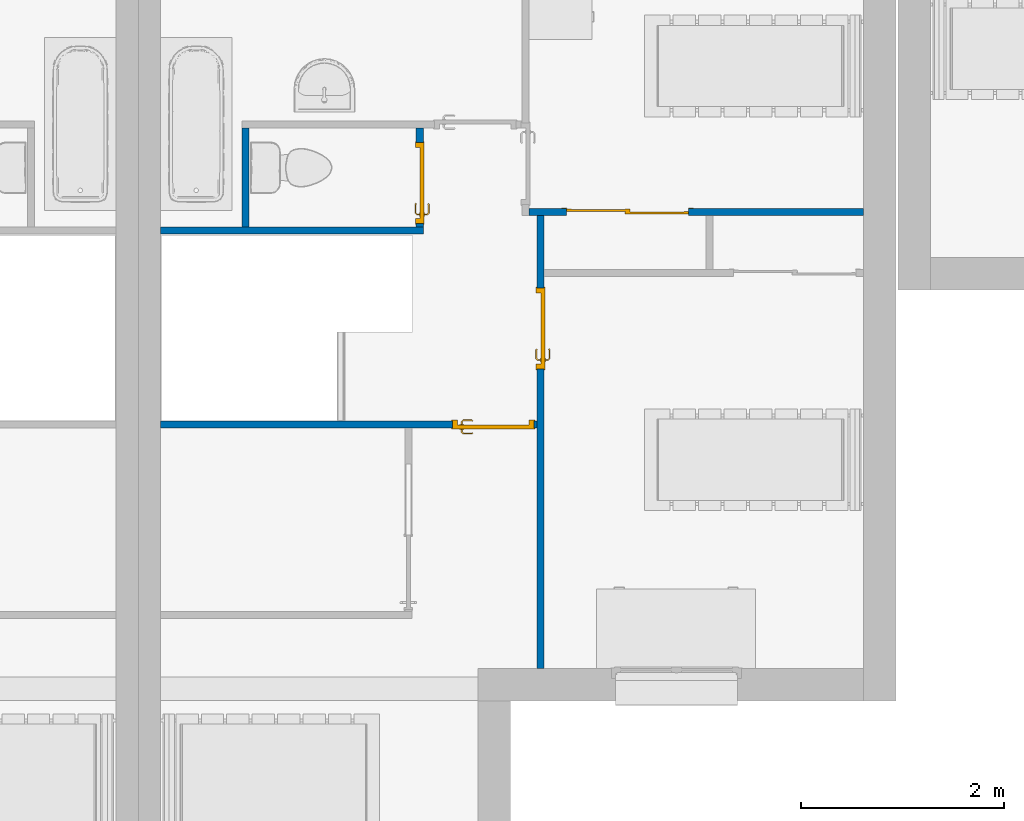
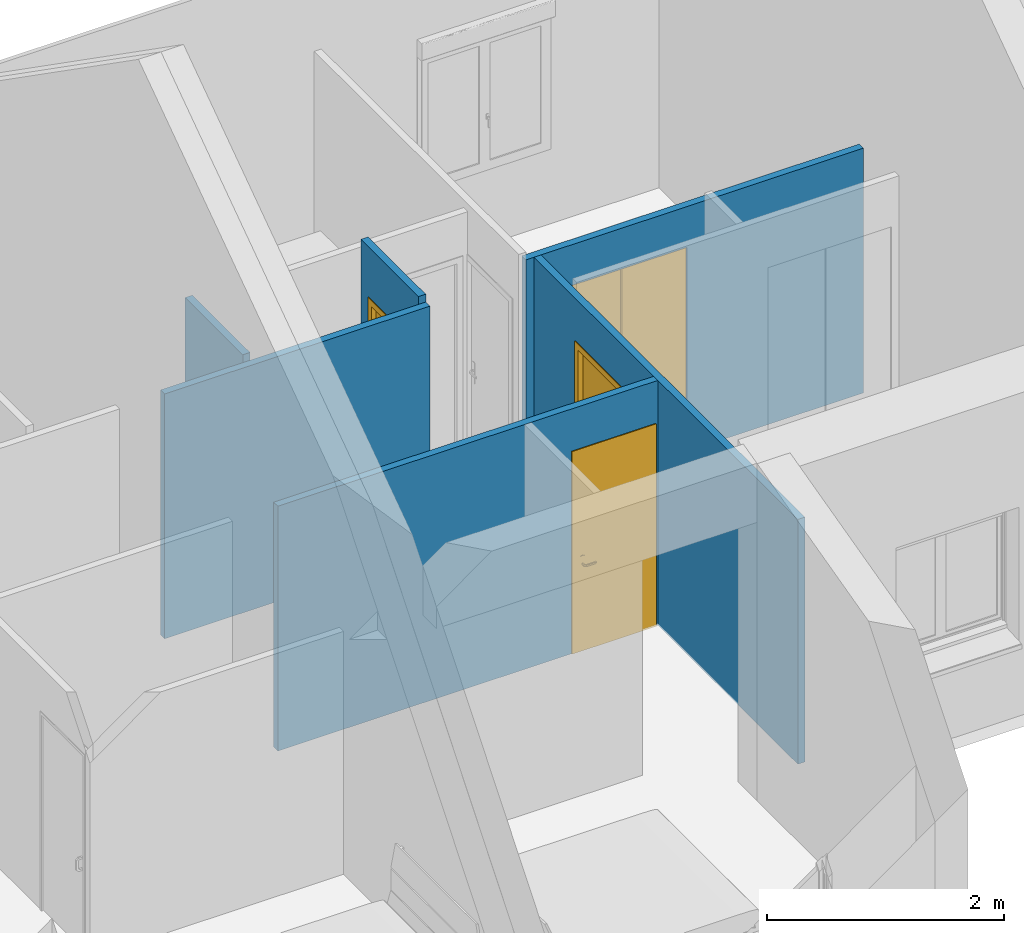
# One storey, part 17 of 50: 6 walls, 4 doors, 4 openings.
"""IFC2X3 building model written with IfcOpenShell, lengths in metres."""

from ifc_helpers import new_model, entity, si_unit, converted_unit, derived_unit, direction, frame, frame_2d, origin, origin_2d_with_axis, place, context, subcontext, project, spatial, polyline, circle_curve, parameter, trimmed, segment, composite_curve, rectangle, outline, extrude, faceted_brep, source, transform, mapped, material, material_list, layer, layer_set, layer_usage, type_object, type_shapes, element, fill, save


model = new_model("IFC2X3")

# Units and contexts
model_context = context("Model", 3, precision=1e-05, world=origin(), true_north=direction((6.12303176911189e-17, 1.0)))
context_of_model = context(None, 3, precision=1e-05, world=origin(), true_north=direction((6.12303176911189e-17, 1.0)))
body_context = subcontext(model_context, "Body", "Model", "MODEL_VIEW")
ifc_project = project(units=[si_unit("LENGTHUNIT", "METRE"), si_unit("AREAUNIT", "SQUARE_METRE"), si_unit("VOLUMEUNIT", "CUBIC_METRE"), converted_unit("PLANEANGLEUNIT", "DEGREE", entity("IfcRatioMeasure", 0.0174532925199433), si_unit("PLANEANGLEUNIT", "RADIAN"), dimensions=[0, 0, 0, 0, 0, 0, 0]), si_unit("MASSUNIT", "GRAM", prefix="KILO"), si_unit("TIMEUNIT", "SECOND"), si_unit("FREQUENCYUNIT", "HERTZ"), si_unit("THERMODYNAMICTEMPERATUREUNIT", "DEGREE_CELSIUS"), derived_unit("THERMALTRANSMITTANCEUNIT", [(si_unit("MASSUNIT", "GRAM", prefix="KILO"), 1), (si_unit("THERMODYNAMICTEMPERATUREUNIT", "KELVIN"), -1), (si_unit("TIMEUNIT", "SECOND"), -3)]), derived_unit("VOLUMETRICFLOWRATEUNIT", [(si_unit("LENGTHUNIT", "METRE"), 3), (si_unit("TIMEUNIT", "SECOND"), -1)]), si_unit("ELECTRICCURRENTUNIT", "AMPERE"), si_unit("ELECTRICVOLTAGEUNIT", "VOLT"), si_unit("POWERUNIT", "WATT"), si_unit("FORCEUNIT", "NEWTON", prefix="KILO"), si_unit("ILLUMINANCEUNIT", "LUX"), si_unit("LUMINOUSFLUXUNIT", "LUMEN"), si_unit("LUMINOUSINTENSITYUNIT", "CANDELA"), si_unit("PRESSUREUNIT", "PASCAL")], contexts=[model_context, context_of_model])

# Site, building, storey
site_placement = place(None, origin())
site = spatial("IfcSite", under=ifc_project, at=site_placement, Name="Surface", CompositionType="ELEMENT")
building_placement = place(site_placement, origin())
building = spatial("IfcBuilding", under=site, at=building_placement, CompositionType="ELEMENT")
storey_placement = place(building_placement, frame((0.0, 0.0, 2.82)))
storey = spatial("IfcBuildingStorey", under=building, at=storey_placement, Name="ETAGE", CompositionType="ELEMENT", Elevation=2.82)

# Wall, opening, door
ifc_material_1 = material(Name="Peinture - Blanc")
ifc_layer = layer(ifc_material_1, 0.07)
ifc_layer_set = layer_set([ifc_layer], Name="Mur de base:Int.  Platre 70 mm en blanc")
ifc_layer_usage_1 = layer_usage(ifc_layer_set, "AXIS2", "NEGATIVE", 0.035)
wall_type = type_object("IfcWallType", Name="Mur de base:Int.  Platre 70 mm en blanc", PredefinedType="STANDARD", material=ifc_layer_set)
wall_1_placement = place(storey_placement, frame((72.7896263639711, 80.2077566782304, 0.0), z_axis=(0.0, 0.0, 1.0), x_axis=(0.0, 1.0, 0.0)))
wall_1 = element("IfcWallStandardCase", 1, at=wall_1_placement, inside=storey, type_object=wall_type, material=ifc_layer_usage_1, Name="Mur de base:Int.  Platre 70 mm en blanc", ObjectType="Mur de base:Int.  Platre 70 mm en blanc", context=body_context, shape_type="SweptSolid", body=[
    extrude(rectangle(XDim=4.44999999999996, YDim=0.0700000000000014, at=frame_2d((2.22499999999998, 0.0), x_axis=(-1.0, 0.0))), origin(), (0.0, 0.0, 1.0), 2.52),
])
opening_1_placement = place(wall_1_placement, frame((3.74, 0.035, 0.0)))
opening_1 = element("IfcOpeningElement", 2, at=opening_1_placement, cuts=wall_1, Name="FR_Simple (R):73 x 204 - (70):1", ObjectType="Opening", context=body_context, shape_type="SweptSolid", body=[
    extrude(rectangle(XDim=2.075, YDim=0.799999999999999, at=frame_2d((1.0375, 0.400000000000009), x_axis=(1.0, 0.0))), frame((0.0, 0.0, 0.0), z_axis=(0.0, -1.0, 0.0), x_axis=(0.0, 0.0, 1.0)), (0.0, 0.0, 1.0), 0.07),
])
ifc_material_2 = material(Name="Poignée Porte")
ifc_material_3 = material(Name="Dormants Portes")
ifc_material_4 = material(Name="Panneaux Portes")
ifc_material_list_1 = material_list([ifc_material_2, ifc_material_3, ifc_material_4])
ifc_material_list_2 = material_list([ifc_material_2, ifc_material_3, ifc_material_4])
door_style_1 = type_object("IfcDoorStyle", Name="73 x 204 - (70)", ConstructionType="NOTDEFINED", OperationType="SINGLE_SWING_LEFT", ParameterTakesPrecedence=False, Sizeable=False, material=ifc_material_list_2)
shared_shape_1 = source(origin(), body_context, "Body", "Brep", [
    faceted_brep([(0.100352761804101, -0.0130000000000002, 0.766003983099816), (0.11, -0.0130000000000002, 0.770000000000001), (0.11, -0.0130000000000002, 0.980000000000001), (0.100352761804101, -0.0130000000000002, 0.983996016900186), (0.0900000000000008, -0.0130000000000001, 0.985358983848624), (0.0796472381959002, -0.0130000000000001, 0.983996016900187), (0.0700000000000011, -0.0130000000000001, 0.980000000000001), (0.0700000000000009, -0.0130000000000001, 0.770000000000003), (0.0796472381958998, -0.0130000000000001, 0.766003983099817), (0.0900000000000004, -0.0130000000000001, 0.764641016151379), (0.100352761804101, -0.00800000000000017, 0.983996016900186), (0.11, -0.00800000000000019, 0.980000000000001), (0.11, -0.00800000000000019, 0.770000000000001), (0.100352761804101, -0.00800000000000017, 0.766003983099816), (0.0900000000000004, -0.00800000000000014, 0.764641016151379), (0.0796472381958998, -0.0080000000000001, 0.766003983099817), (0.0700000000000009, -0.00800000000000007, 0.770000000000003), (0.0700000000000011, -0.00800000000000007, 0.980000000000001), (0.0796472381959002, -0.0080000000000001, 0.983996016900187), (0.0900000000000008, -0.00800000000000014, 0.985358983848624)], [[[0, 1, 2, 3, 4, 5, 6, 7, 8, 9]], [[10, 11, 12, 13, 14, 15, 16, 17, 18, 19]], [[16, 15, 8, 7]], [[8, 15, 14, 9]], [[14, 13, 0, 9]], [[13, 12, 1, 0]], [[2, 1, 12, 11]], [[11, 10, 3, 2]], [[3, 10, 19, 4]], [[19, 18, 5, 4]], [[18, 17, 6, 5]], [[7, 6, 17, 16]]]),
    faceted_brep([(0.100352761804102, 0.0319999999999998, 0.766003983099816), (0.110000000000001, 0.0319999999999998, 0.770000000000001), (0.11, 0.0319999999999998, 0.980000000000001), (0.100352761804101, 0.0319999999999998, 0.983996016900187), (0.0900000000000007, 0.0319999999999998, 0.985358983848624), (0.0796472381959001, 0.0319999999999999, 0.983996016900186), (0.0700000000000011, 0.0319999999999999, 0.980000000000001), (0.0700000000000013, 0.0319999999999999, 0.770000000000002), (0.0796472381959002, 0.0319999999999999, 0.766003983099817), (0.0900000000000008, 0.0319999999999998, 0.764641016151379), (0.100352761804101, 0.0369999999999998, 0.983996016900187), (0.11, 0.0369999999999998, 0.980000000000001), (0.110000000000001, 0.0369999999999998, 0.770000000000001), (0.100352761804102, 0.0369999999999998, 0.766003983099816), (0.0900000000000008, 0.0369999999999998, 0.764641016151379), (0.0796472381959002, 0.0369999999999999, 0.766003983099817), (0.0700000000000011, 0.0369999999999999, 0.770000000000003), (0.0700000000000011, 0.0369999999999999, 0.980000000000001), (0.0796472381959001, 0.0369999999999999, 0.983996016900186), (0.0900000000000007, 0.0369999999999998, 0.985358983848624)], [[[0, 1, 2, 3, 4, 5, 6, 7, 8, 9]], [[10, 11, 12, 13, 14, 15, 16, 17, 18, 19]], [[11, 10, 3, 2]], [[3, 10, 19, 4]], [[19, 18, 5, 4]], [[18, 17, 6, 5]], [[7, 6, 17, 16]], [[16, 15, 8, 7]], [[8, 15, 14, 9]], [[14, 13, 0, 9]], [[13, 12, 1, 0]], [[2, 1, 12, 11]]]),
    faceted_brep([(0.0879747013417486, -0.0130000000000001, 0.907780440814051), (0.0920252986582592, -0.0130000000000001, 0.907780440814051), (0.0960000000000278, -0.0130000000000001, 0.906999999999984), (0.0960000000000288, -0.0130000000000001, 0.893000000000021), (0.0920252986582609, -0.0130000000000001, 0.89221955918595), (0.0879747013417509, -0.0130000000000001, 0.892219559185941), (0.0839999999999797, -0.0130000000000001, 0.892999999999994), (0.0839999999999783, -0.0130000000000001, 0.90699999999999), (0.083999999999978, -0.0406509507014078, 0.906999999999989), (0.0879747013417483, -0.0390045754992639, 0.907780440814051), (0.104023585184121, -0.0550534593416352, 0.907780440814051), (0.105701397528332, -0.0510028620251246, 0.907780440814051), (0.0920252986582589, -0.0373267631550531, 0.907780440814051), (0.198521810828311, -0.0473891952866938, 0.90778044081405), (0.195657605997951, -0.0445249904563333, 0.90778044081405), (0.18917973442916, -0.0510028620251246, 0.90778044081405), (0.190857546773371, -0.0550534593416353, 0.90778044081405), (0.0960000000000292, -0.0356803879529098, 0.90699999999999), (0.0960000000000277, -0.0356803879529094, 0.893000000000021), (0.0920252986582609, -0.0373267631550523, 0.89221955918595), (0.105701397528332, -0.0510028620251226, 0.89221955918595), (0.104023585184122, -0.0550534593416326, 0.89221955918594), (0.0879747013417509, -0.0390045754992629, 0.89221955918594), (0.195657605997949, -0.044524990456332, 0.89221955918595), (0.19852181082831, -0.0473891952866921, 0.89221955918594), (0.19085754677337, -0.0550534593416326, 0.89221955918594), (0.18917973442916, -0.0510028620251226, 0.89221955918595), (0.0839999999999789, -0.0406509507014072, 0.892999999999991), (0.102377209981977, -0.0590281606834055, 0.906999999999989), (0.107347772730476, -0.0470281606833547, 0.90699999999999), (0.107347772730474, -0.0470281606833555, 0.893000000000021), (0.102377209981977, -0.0590281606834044, 0.892999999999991), (0.142307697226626, -0.0590281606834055, 0.906999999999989), (0.147440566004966, -0.053182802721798, 0.907878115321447), (0.192503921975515, -0.0590281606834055, 0.906999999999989), (0.147440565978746, -0.0470281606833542, 0.90699999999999), (0.187533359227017, -0.0470281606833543, 0.906999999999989), (0.187533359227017, -0.0470281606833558, 0.89300000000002), (0.147440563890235, -0.0470281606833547, 0.893000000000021), (0.147440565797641, -0.0531828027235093, 0.892121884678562), (0.192503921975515, -0.0590281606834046, 0.892999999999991), (0.152573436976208, -0.0590281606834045, 0.892999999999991), (0.192847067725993, -0.0417144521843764, 0.906999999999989), (0.201332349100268, -0.0501997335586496, 0.906999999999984), (0.201332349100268, -0.05019973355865, 0.892999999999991), (0.192847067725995, -0.0417144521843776, 0.893000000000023)], [[[0, 1, 2, 3, 4, 5, 6, 7]], [[8, 9, 0, 7]], [[9, 10, 11, 12, 1, 0]], [[13, 14, 15, 16]], [[12, 17, 2, 1]], [[3, 2, 17, 18]], [[18, 19, 4, 3]], [[19, 20, 21, 22, 5, 4]], [[23, 24, 25, 26]], [[22, 27, 6, 5]], [[7, 6, 27, 8]], [[28, 10, 9, 8]], [[11, 29, 17, 12]], [[18, 17, 29, 30]], [[30, 20, 19, 18]], [[21, 31, 27, 22]], [[8, 27, 31, 28]], [[32, 33, 10]], [[33, 32, 16]], [[10, 28, 32]], [[34, 16, 32]], [[33, 35, 11]], [[11, 10, 33]], [[15, 35, 33]], [[29, 11, 35]], [[35, 15, 36]], [[15, 33, 16]], [[30, 29, 35, 36, 37, 38]], [[20, 38, 39]], [[25, 40, 41]], [[31, 21, 41]], [[41, 21, 39]], [[39, 38, 26]], [[26, 25, 39]], [[38, 20, 30]], [[37, 26, 38]], [[20, 39, 21]], [[41, 39, 25]], [[28, 31, 41, 40, 34, 32]], [[42, 14, 13, 43, 44, 24, 23, 45]], [[43, 13, 16, 34]], [[14, 42, 36, 15]], [[37, 36, 42, 45]], [[45, 23, 26, 37]], [[24, 44, 40, 25]], [[34, 40, 44, 43]]]),
    faceted_brep([(0.0879747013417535, 0.0369999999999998, 0.892219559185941), (0.092025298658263, 0.0369999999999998, 0.892219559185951), (0.0960000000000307, 0.0369999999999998, 0.893000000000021), (0.096000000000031, 0.0369999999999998, 0.90699999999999), (0.0920252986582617, 0.0369999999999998, 0.907780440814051), (0.0879747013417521, 0.0369999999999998, 0.907780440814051), (0.0839999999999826, 0.0369999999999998, 0.90699999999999), (0.0839999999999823, 0.0369999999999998, 0.892999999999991), (0.0960000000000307, 0.0594852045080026, 0.893000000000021), (0.0960000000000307, 0.0594852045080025, 0.90699999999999), (0.092025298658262, 0.0611315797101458, 0.907780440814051), (0.105838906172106, 0.0749451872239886, 0.907780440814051), (0.104161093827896, 0.0789957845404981, 0.907780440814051), (0.0879747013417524, 0.0628093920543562, 0.907780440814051), (0.195684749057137, 0.0684673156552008, 0.907780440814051), (0.198548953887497, 0.071331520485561, 0.907780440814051), (0.190884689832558, 0.0789957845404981, 0.907780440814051), (0.189206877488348, 0.0749451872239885, 0.907780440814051), (0.0839999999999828, 0.0644557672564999, 0.90699999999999), (0.0839999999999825, 0.0644557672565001, 0.892999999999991), (0.0879747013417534, 0.0628093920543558, 0.892219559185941), (0.104161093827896, 0.0789957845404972, 0.892219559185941), (0.105838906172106, 0.0749451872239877, 0.892219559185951), (0.0920252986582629, 0.0611315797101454, 0.892219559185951), (0.198548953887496, 0.07133152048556, 0.89221955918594), (0.195684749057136, 0.0684673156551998, 0.89221955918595), (0.189206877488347, 0.0749451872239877, 0.89221955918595), (0.190884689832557, 0.0789957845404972, 0.89221955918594), (0.107485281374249, 0.0709704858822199, 0.893000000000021), (0.107485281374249, 0.0709704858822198, 0.90699999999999), (0.102514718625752, 0.0829704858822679, 0.90699999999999), (0.102514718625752, 0.0829704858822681, 0.892999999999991), (0.147522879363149, 0.0709704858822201, 0.89300000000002), (0.187560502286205, 0.0709704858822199, 0.89300000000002), (0.187560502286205, 0.0709704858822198, 0.90699999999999), (0.147522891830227, 0.0709704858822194, 0.90699999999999), (0.147522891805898, 0.0771249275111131, 0.907878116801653), (0.192531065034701, 0.0829704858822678, 0.90699999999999), (0.152600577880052, 0.0829704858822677, 0.90699999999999), (0.192531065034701, 0.082970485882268, 0.892999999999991), (0.142445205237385, 0.0829704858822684, 0.892999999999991), (0.147522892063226, 0.0771249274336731, 0.892121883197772), (0.192874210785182, 0.0656567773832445, 0.89300000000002), (0.201359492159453, 0.0741420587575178, 0.892999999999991), (0.201359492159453, 0.0741420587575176, 0.90699999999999), (0.192874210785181, 0.0656567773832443, 0.90699999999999)], [[[0, 1, 2, 3, 4, 5, 6, 7]], [[3, 2, 8, 9]], [[9, 10, 4, 3]], [[10, 11, 12, 13, 5, 4]], [[14, 15, 16, 17]], [[13, 18, 6, 5]], [[7, 6, 18, 19]], [[19, 20, 0, 7]], [[20, 21, 22, 23, 1, 0]], [[24, 25, 26, 27]], [[23, 8, 2, 1]], [[9, 8, 28, 29]], [[29, 11, 10, 9]], [[12, 30, 18, 13]], [[19, 18, 30, 31]], [[31, 21, 20, 19]], [[22, 28, 8, 23]], [[28, 32, 33, 34, 35, 29]], [[11, 35, 36]], [[16, 37, 38]], [[30, 12, 38]], [[38, 12, 36]], [[36, 35, 17]], [[17, 16, 36]], [[35, 11, 29]], [[34, 17, 35]], [[11, 36, 12]], [[38, 36, 16]], [[31, 30, 38, 37, 39, 40]], [[40, 41, 21]], [[41, 40, 27]], [[21, 31, 40]], [[39, 27, 40]], [[41, 32, 22]], [[22, 21, 41]], [[26, 32, 41]], [[28, 22, 32]], [[32, 26, 33]], [[26, 41, 27]], [[42, 25, 24, 43, 44, 15, 14, 45]], [[34, 33, 42, 45]], [[45, 14, 17, 34]], [[15, 44, 37, 16]], [[39, 37, 44, 43]], [[43, 24, 27, 39]], [[25, 42, 33, 26]]]),
    faceted_brep([(0.0, 0.0, 0.0), (0.0, 0.0700000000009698, 0.0), (-0.00999999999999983, 0.0700000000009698, 0.0), (-0.00999999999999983, 0.0780000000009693, 0.0), (0.0499999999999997, 0.0780000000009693, 0.0), (0.0499999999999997, 0.032, 0.0), (0.0350000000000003, 0.032, 0.0), (0.0350000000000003, -0.00799999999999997, 0.0), (-0.00999999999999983, -0.00799999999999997, 0.0), (-0.00999999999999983, 0.0, 0.0), (0.0, 0.0, 2.075), (0.0, 0.0700000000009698, 2.075), (0.799999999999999, 0.0700000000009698, 2.075), (0.799999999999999, 0.0700000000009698, 0.0), (0.809999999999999, 0.0700000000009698, 0.0), (0.809999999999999, 0.0700000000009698, 2.085), (-0.00999999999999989, 0.0700000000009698, 2.085), (-0.00999999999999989, 0.0780000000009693, 2.085), (0.809999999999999, 0.0780000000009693, 2.085), (0.809999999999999, 0.0780000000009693, 0.0), (0.75, 0.0780000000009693, 0.0), (0.75, 0.0780000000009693, 2.025), (0.0499999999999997, 0.0780000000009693, 2.025), (0.0499999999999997, 0.032, 2.025), (0.75, 0.032, 2.025), (0.75, 0.032, 0.0), (0.764999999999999, 0.032, 0.0), (0.764999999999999, 0.032, 2.04), (0.0350000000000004, 0.032, 2.04), (0.0350000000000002, -0.00799999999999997, 2.04), (0.764999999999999, -0.00799999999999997, 2.04), (0.764999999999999, -0.00799999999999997, 0.0), (0.809999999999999, -0.00799999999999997, 0.0), (0.809999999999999, -0.00799999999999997, 2.085), (-0.00999999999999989, -0.00799999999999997, 2.085), (-0.00999999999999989, 0.0, 2.085), (0.809999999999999, 0.0, 2.085), (0.809999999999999, 0.0, 0.0), (0.799999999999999, 0.0, 0.0), (0.799999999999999, 0.0, 2.075)], [[[0, 1, 2, 3, 4, 5, 6, 7, 8, 9]], [[1, 0, 10, 11]], [[2, 1, 11, 12, 13, 14, 15, 16]], [[3, 2, 16, 17]], [[4, 3, 17, 18, 19, 20, 21, 22]], [[5, 4, 22, 23]], [[6, 5, 23, 24, 25, 26, 27, 28]], [[7, 6, 28, 29]], [[8, 7, 29, 30, 31, 32, 33, 34]], [[9, 8, 34, 35]], [[0, 9, 35, 36, 37, 38, 39, 10]], [[11, 10, 39, 12]], [[17, 16, 15, 18]], [[23, 22, 21, 24]], [[29, 28, 27, 30]], [[35, 34, 33, 36]], [[38, 37, 32, 31, 26, 25, 20, 19, 14, 13]], [[12, 39, 38, 13]], [[18, 15, 14, 19]], [[24, 21, 20, 25]], [[30, 27, 26, 31]], [[36, 33, 32, 37]]]),
    faceted_brep([(0.0350000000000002, -0.00799999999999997, 2.04), (0.0350000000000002, -0.00799999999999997, 0.0), (0.764999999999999, -0.00799999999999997, 0.0), (0.764999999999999, -0.00799999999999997, 2.04), (0.0350000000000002, 0.032, 2.04), (0.764999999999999, 0.032, 2.04), (0.764999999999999, 0.032, 0.0), (0.0350000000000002, 0.032, 0.0)], [[[0, 1, 2, 3]], [[4, 5, 6, 7]], [[1, 0, 4, 7]], [[2, 1, 7, 6]], [[3, 2, 6, 5]], [[0, 3, 5, 4]]]),
])
type_shapes(door_style_1, [shared_shape_1])
door_1_placement = place(opening_1_placement, frame((-0.800000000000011, -0.0699999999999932, 0.0)))
door_1 = element("IfcDoor", 3, at=door_1_placement, inside=storey, type_object=door_style_1, material=ifc_material_list_1, Name="FR_Simple (R):73 x 204 - (70)", ObjectType="73 x 204 - (70)", OverallHeight=2.075, OverallWidth=0.800000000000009, context=body_context, shape_type="MappedRepresentation", body=[
    mapped(shared_shape_1, transform((0.0, 0.0, 0.0), scale=1.0)),
])
fill(opening_1, door_1)

ifc_layer_usage_2 = layer_usage(ifc_layer_set, "AXIS2", "NEGATIVE", 0.035)
wall_2_placement = place(storey_placement, frame((72.7546263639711, 82.6027566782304, 0.0), z_axis=(0.0, 0.0, 1.0), x_axis=(-1.0, 0.0, 0.0)))
wall_2 = element("IfcWallStandardCase", 4, at=wall_2_placement, inside=storey, type_object=wall_type, material=ifc_layer_usage_2, Name="Mur de base:Int.  Platre 70 mm en blanc", ObjectType="Mur de base:Int.  Platre 70 mm en blanc", context=body_context, shape_type="SweptSolid", body=[
    extrude(rectangle(XDim=3.70038340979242, YDim=0.0699999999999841, at=frame_2d((1.85019170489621, 0.0), x_axis=(-1.0, 0.0))), origin(), (0.0, 0.0, 1.0), 2.52),
])
opening_2_placement = place(wall_2_placement, frame((0.0299999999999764, -0.035, 0.0)))
opening_2 = element("IfcOpeningElement", 5, at=opening_2_placement, cuts=wall_2, Name="FR_Simple (R):73 x 204 - (70):1", ObjectType="Opening", context=body_context, shape_type="SweptSolid", body=[
    extrude(rectangle(XDim=2.075, YDim=0.799999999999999, at=frame_2d((1.0375, 0.4), x_axis=(1.0, 0.0))), frame((0.0, 0.0, 0.0), z_axis=(0.0, 1.0, 0.0), x_axis=(0.0, 0.0, 1.0)), (0.0, 0.0, 1.0), 0.07),
])
ifc_material_list_3 = material_list([ifc_material_2, ifc_material_3, ifc_material_4])
door_2_placement = place(opening_2_placement, frame((0.800000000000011, 0.0699999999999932, 0.0), z_axis=(0.0, 0.0, 1.0), x_axis=(-1.0, 0.0, 0.0)))
door_2 = element("IfcDoor", 6, at=door_2_placement, inside=storey, type_object=door_style_1, material=ifc_material_list_3, Name="FR_Simple (R):73 x 204 - (70)", ObjectType="73 x 204 - (70)", OverallHeight=2.075, OverallWidth=0.8, context=body_context, shape_type="MappedRepresentation", body=[
    mapped(shared_shape_1, transform((0.0, 0.0, 0.0), scale=1.0)),
])
fill(opening_2, door_2)

# Wall
ifc_layer_usage_3 = layer_usage(ifc_layer_set, "AXIS2", "NEGATIVE", 0.035)
wall_3_placement = place(storey_placement, frame((69.0542429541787, 84.5094372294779, 0.0)))
element("IfcWallStandardCase", 7, at=wall_3_placement, inside=storey, type_object=wall_type, material=ifc_layer_usage_3, Name="Mur de base:Int.  Platre 70 mm en blanc", ObjectType="Mur de base:Int.  Platre 70 mm en blanc", context=body_context, shape_type="SweptSolid", body=[
    extrude(rectangle(XDim=2.58204916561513, YDim=0.0699999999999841, at=frame_2d((1.29102458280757, 0.0), x_axis=(-1.0, 0.0))), origin(), (0.0, 0.0, 1.0), 2.52),
])

# Wall, opening, door
ifc_layer_usage_4 = layer_usage(ifc_layer_set, "AXIS2", "NEGATIVE", 0.035)
wall_4_placement = place(storey_placement, frame((72.6767429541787, 84.6927566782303, 0.0)))
wall_4 = element("IfcWallStandardCase", 8, at=wall_4_placement, inside=storey, type_object=wall_type, material=ifc_layer_usage_4, Name="Mur de base:Int.  Platre 70 mm en blanc", ObjectType="Mur de base:Int.  Platre 70 mm en blanc", context=body_context, shape_type="SweptSolid", body=[
    extrude(rectangle(XDim=3.28614635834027, YDim=0.0699999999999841, at=frame_2d((1.64307317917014, 2.15105711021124e-16), x_axis=(-1.0, 0.0))), origin(), (0.0, 0.0, 1.0), 2.52),
])
opening_3_placement = place(wall_4_placement, frame((0.368699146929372, -0.0350000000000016, 0.0)))
opening_3 = element("IfcOpeningElement", 9, at=opening_3_placement, cuts=wall_4, Name="Placard coulissante - 2 panneaux:Placard coulissante - 2 panneaux:1", ObjectType="Opening", context=body_context, shape_type="SweptSolid", body=[
    extrude(rectangle(XDim=2.09999999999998, YDim=1.2, at=frame_2d((1.04999999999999, 0.600000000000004), x_axis=(1.0, 0.0))), frame((0.0, 0.0, 0.0), z_axis=(0.0, 1.0, 0.0), x_axis=(0.0, 0.0, 1.0)), (0.0, 0.0, 1.0), 0.07),
])
ifc_material_5 = material(Name="Placard - Profil")
ifc_material_6 = material(Name="Placard - Encadrement")
ifc_material_7 = material(Name="Placard - Porte")
ifc_material_list_4 = material_list([ifc_material_5, ifc_material_6, ifc_material_7])
ifc_material_list_5 = material_list([ifc_material_5, ifc_material_6, ifc_material_7])
door_style_2 = type_object("IfcDoorStyle", Name="Placard coulissante - 2 panneaux", ConstructionType="NOTDEFINED", OperationType="SLIDING_TO_RIGHT", ParameterTakesPrecedence=False, Sizeable=False, material=ifc_material_list_5)
shared_shape_2 = source(origin(), body_context, "Body", "SweptSolid", [
    extrude(outline(composite_curve([segment(polyline([(-0.0250000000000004, -0.00100000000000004), (0.0249999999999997, -0.00100000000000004)]), True, "CONTINUOUS"), segment(polyline([(0.0249999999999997, -0.00100000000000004), (0.0249999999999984, 0.00100000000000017)]), True, "CONTINUOUS"), segment(trimmed(circle_curve(frame_2d((0.0, -0.212860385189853), x_axis=(-1.0, 0.0)), 0.215316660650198), [parameter(263.332459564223)], [parameter(276.667540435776)], True, "PARAMETER"), True, "CONTINUOUS"), segment(polyline([(-0.0250000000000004, 0.00100000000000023), (-0.0250000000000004, -0.00100000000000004)]), True, "CONTINUOUS")], self_intersect=False)), frame((1.175, 0.00900000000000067, 0.0), z_axis=(0.0, 0.0, 1.0), x_axis=(-1.0, 0.0, 0.0)), (0.0, 0.0, 1.0), 2.1),
    extrude(outline(composite_curve([segment(polyline([(-0.0250000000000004, -0.00100000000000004), (0.0249999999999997, -0.00100000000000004)]), True, "CONTINUOUS"), segment(polyline([(0.0249999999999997, -0.00100000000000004), (0.0249999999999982, 0.00100000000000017)]), True, "CONTINUOUS"), segment(trimmed(circle_curve(frame_2d((0.0, -0.212860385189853), x_axis=(-1.0, 0.0)), 0.215316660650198), [parameter(263.332459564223)], [parameter(276.667540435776)], True, "PARAMETER"), True, "CONTINUOUS"), segment(polyline([(-0.0250000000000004, 0.00100000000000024), (-0.0250000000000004, -0.00100000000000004)]), True, "CONTINUOUS")], self_intersect=False)), frame((0.599999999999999, 0.00900000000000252, 0.0), z_axis=(0.0, 0.0, 1.0), x_axis=(-1.0, 0.0, 0.0)), (0.0, 0.0, 1.0), 2.1),
    extrude(outline(composite_curve([segment(polyline([(-0.0250000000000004, -0.00100000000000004), (0.0249999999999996, -0.00100000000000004)]), True, "CONTINUOUS"), segment(polyline([(0.0249999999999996, -0.00100000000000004), (0.0249999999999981, 0.00100000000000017)]), True, "CONTINUOUS"), segment(trimmed(circle_curve(frame_2d((0.0, -0.212860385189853), x_axis=(-1.0, 0.0)), 0.215316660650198), [parameter(263.332459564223)], [parameter(276.667540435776)], True, "PARAMETER"), True, "CONTINUOUS"), segment(polyline([(-0.0250000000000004, 0.00100000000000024), (-0.0250000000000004, -0.00100000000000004)]), True, "CONTINUOUS")], self_intersect=False)), frame((0.599999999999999, 0.0340000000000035, 0.0), z_axis=(0.0, 0.0, 1.0), x_axis=(-1.0, 0.0, 0.0)), (0.0, 0.0, 1.0), 2.1),
    extrude(outline(composite_curve([segment(polyline([(-0.0250000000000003, -0.00100000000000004), (0.0249999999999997, -0.00100000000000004)]), True, "CONTINUOUS"), segment(polyline([(0.0249999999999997, -0.00100000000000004), (0.0249999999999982, 0.00100000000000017)]), True, "CONTINUOUS"), segment(trimmed(circle_curve(frame_2d((0.0, -0.212860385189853), x_axis=(-1.0, 0.0)), 0.215316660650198), [parameter(263.332459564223)], [parameter(276.667540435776)], True, "PARAMETER"), True, "CONTINUOUS"), segment(polyline([(-0.0250000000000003, 0.00100000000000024), (-0.0250000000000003, -0.00100000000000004)]), True, "CONTINUOUS")], self_intersect=False)), frame((0.0250000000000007, 0.0340000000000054, 0.0), z_axis=(0.0, 0.0, 1.0), x_axis=(-1.0, 0.0, 0.0)), (0.0, 0.0, 1.0), 2.1),
    extrude(outline(polyline([(-1.06149999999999, -0.647999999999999), (1.08649999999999, -0.647999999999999), (1.08649999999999, 0.647999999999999), (-1.06149999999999, 0.647999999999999), (-1.06149999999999, 0.597999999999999), (1.03649999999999, 0.597999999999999), (1.03649999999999, -0.597999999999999), (-1.06149999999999, -0.597999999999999), (-1.06149999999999, -0.647999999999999)])), frame((0.6, -0.003, 1.06149999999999), z_axis=(0.0, 1.0, 0.0), x_axis=(0.0, 0.0, 1.0)), (0.0, 0.0, 1.0), 0.003),
    extrude(rectangle(XDim=0.020000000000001, YDim=0.625000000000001, at=origin_2d_with_axis()), frame((0.8875, 0.0200000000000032, 0.0), z_axis=(0.0, 0.0, 1.0), x_axis=(0.0, 1.0, 0.0)), (0.0, 0.0, 1.0), 2.1),
    extrude(rectangle(XDim=0.02, YDim=0.624999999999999, at=origin_2d_with_axis()), frame((0.3125, 0.0450000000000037, 0.0), z_axis=(0.0, 0.0, 1.0), x_axis=(0.0, 1.0, 0.0)), (0.0, 0.0, 1.0), 2.1),
])
type_shapes(door_style_2, [shared_shape_2])
door_3_placement = place(opening_3_placement, frame((1.2, 0.0699999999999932, 0.0), z_axis=(0.0, 0.0, 1.0), x_axis=(-1.0, 0.0, 0.0)))
door_3 = element("IfcDoor", 10, at=door_3_placement, inside=storey, type_object=door_style_2, material=ifc_material_list_4, Name="Placard coulissante - 2 panneaux:Placard coulissante - 2 panneaux", ObjectType="Placard coulissante - 2 panneaux", OverallHeight=2.09999999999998, OverallWidth=1.2, context=body_context, shape_type="MappedRepresentation", body=[
    mapped(shared_shape_2, transform((0.0, 0.0, 0.0), scale=1.0)),
])
fill(opening_3, door_3)

ifc_layer_usage_5 = layer_usage(ifc_layer_set, "AXIS2", "NEGATIVE", 0.035)
wall_5_placement = place(storey_placement, frame((71.6012921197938, 84.5444372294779, 0.0), z_axis=(0.0, 0.0, 1.0), x_axis=(0.0, 1.0, 0.0)))
wall_5 = element("IfcWallStandardCase", 11, at=wall_5_placement, inside=storey, type_object=wall_type, material=ifc_layer_usage_5, Name="Mur de base:Int.  Platre 70 mm en blanc", ObjectType="Mur de base:Int.  Platre 70 mm en blanc", context=body_context, shape_type="SweptSolid", body=[
    extrude(rectangle(XDim=0.973319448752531, YDim=0.0700000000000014, at=frame_2d((0.486659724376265, 0.0), x_axis=(-1.0, 0.0))), origin(), (0.0, 0.0, 1.0), 2.6),
])
opening_4_placement = place(wall_5_placement, frame((0.833319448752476, 0.035, 0.0)))
opening_4 = element("IfcOpeningElement", 12, at=opening_4_placement, cuts=wall_5, Name="FR_Simple (R):73 x 204 - (70):1", ObjectType="Opening", context=body_context, shape_type="SweptSolid", body=[
    extrude(rectangle(XDim=2.075, YDim=0.799999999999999, at=frame_2d((1.0375, 0.400000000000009), x_axis=(1.0, 0.0))), frame((0.0, 0.0, 0.0), z_axis=(0.0, -1.0, 0.0), x_axis=(0.0, 0.0, 1.0)), (0.0, 0.0, 1.0), 0.07),
])
ifc_material_list_6 = material_list([ifc_material_2, ifc_material_3, ifc_material_4])
door_4_placement = place(opening_4_placement, frame((-0.800000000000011, -0.0700000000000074, 0.0)))
door_4 = element("IfcDoor", 13, at=door_4_placement, inside=storey, type_object=door_style_1, material=ifc_material_list_6, Name="FR_Simple (R):73 x 204 - (70)", ObjectType="73 x 204 - (70)", OverallHeight=2.075, OverallWidth=0.800000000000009, context=body_context, shape_type="MappedRepresentation", body=[
    mapped(shared_shape_1, transform((0.0, 0.0, 0.0), scale=1.0)),
])
fill(opening_4, door_4)

# Wall
ifc_layer_usage_6 = layer_usage(ifc_layer_set, "AXIS2", "NEGATIVE", 0.035)
wall_6_placement = place(storey_placement, frame((69.8896263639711, 84.5444372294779, 0.0), z_axis=(0.0, 0.0, 1.0), x_axis=(0.0, 1.0, 0.0)))
element("IfcWallStandardCase", 14, at=wall_6_placement, inside=storey, type_object=wall_type, material=ifc_layer_usage_6, Name="Mur de base:Int.  Platre 70 mm en blanc", ObjectType="Mur de base:Int.  Platre 70 mm en blanc", context=body_context, shape_type="SweptSolid", body=[
    extrude(rectangle(XDim=0.973319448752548, YDim=0.0700000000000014, at=frame_2d((0.486659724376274, 0.0), x_axis=(-1.0, 0.0))), origin(), (0.0, 0.0, 1.0), 2.6),
])

save(model, "model.ifc")
